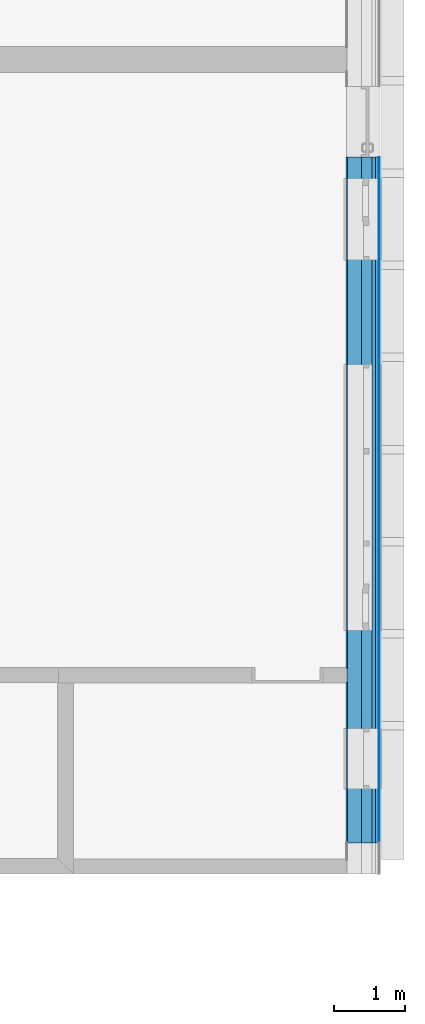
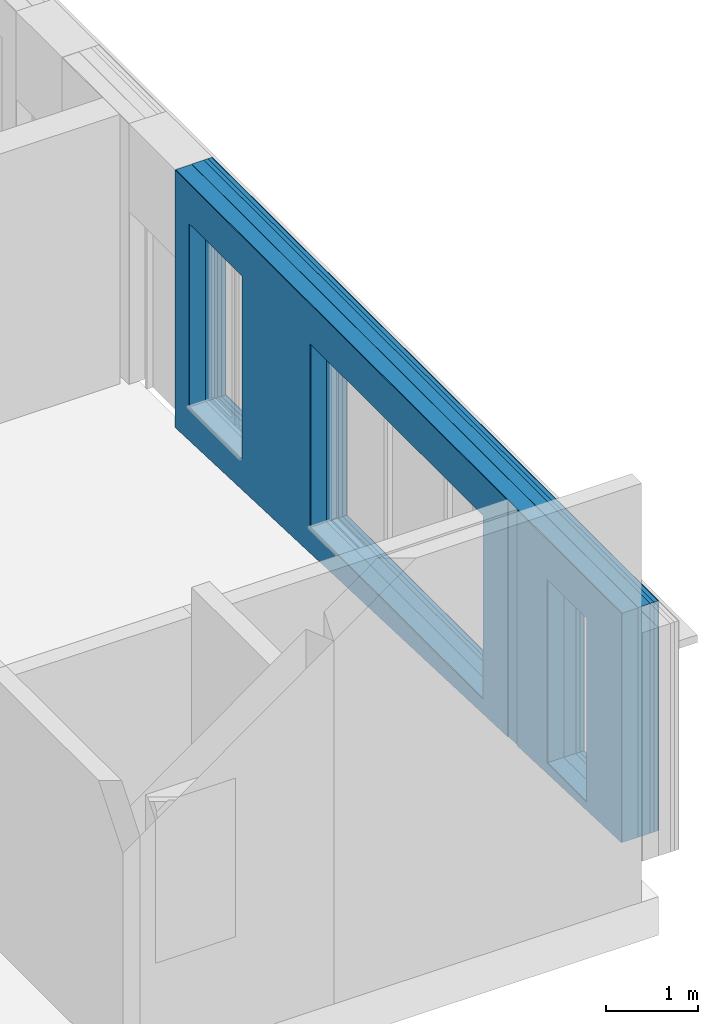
# One storey, part 58 of 65: 6 building element parts, 3 openings, 1 element without a shape of its own.
"""IFC2X3 building model written with IfcOpenShell, lengths in millimetres."""

from ifc_helpers import new_model, entity, si_unit, converted_unit, derived_unit, money_unit, direction, frame, origin_with_axes, origin_2d_with_axis, place, context, subcontext, project, spatial, polyline, rectangle, outline, extrude, boolean, faceted_brep, material, type_object, element, aggregate, save


model = new_model("IFC2X3")

# Units and contexts
model_context = context("Model", 3, precision=0.01, world=origin_with_axes(), true_north=direction((0.0, 1.0)))
body_context = subcontext(model_context, "Body", "Model", "MODEL_VIEW")
ifc_project = project(units=[si_unit("LENGTHUNIT", "METRE", prefix="MILLI"), si_unit("AREAUNIT", "SQUARE_METRE"), si_unit("VOLUMEUNIT", "CUBIC_METRE"), converted_unit("PLANEANGLEUNIT", "DEGREE", entity("IfcPlaneAngleMeasure", 0.0174532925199), si_unit("PLANEANGLEUNIT", "RADIAN"), dimensions=[0, 0, 0, 0, 0, 0, 0]), si_unit("SOLIDANGLEUNIT", "STERADIAN"), money_unit("EUR"), converted_unit("TIMEUNIT", "Year", entity("IfcTimeMeasure", 31556926.0), si_unit("TIMEUNIT", "SECOND"), dimensions=[0, 0, 1, 0, 0, 0, 0]), si_unit("MASSUNIT", "GRAM", prefix="KILO"), si_unit("THERMODYNAMICTEMPERATUREUNIT", "DEGREE_CELSIUS"), si_unit("LUMINOUSINTENSITYUNIT", "LUMEN"), si_unit("ENERGYUNIT", "JOULE", prefix="MEGA"), derived_unit("THERMALCONDUCTANCEUNIT", [(si_unit("POWERUNIT", "WATT"), 1), (si_unit("LENGTHUNIT", "METRE"), -1), (si_unit("THERMODYNAMICTEMPERATUREUNIT", "KELVIN"), -1)]), derived_unit("SPECIFICHEATCAPACITYUNIT", [(si_unit("ENERGYUNIT", "JOULE"), 1), (si_unit("MASSUNIT", "GRAM", prefix="KILO"), -1), (si_unit("THERMODYNAMICTEMPERATUREUNIT", "KELVIN"), -1)]), derived_unit("MASSDENSITYUNIT", [(si_unit("MASSUNIT", "GRAM", prefix="KILO"), 1), (si_unit("VOLUMEUNIT", "CUBIC_METRE"), -1)])], contexts=[model_context])

# Site, building, storey
site_placement = place(None, origin_with_axes())
site = spatial("IfcSite", under=ifc_project, at=site_placement, Name="Puškini 31, Narva", CompositionType="ELEMENT")
building_placement = place(site_placement, origin_with_axes())
building = spatial("IfcBuilding", under=site, at=building_placement, Name="Narva Riigigümnaasium", CompositionType="ELEMENT")
storey_placement = place(building_placement, frame((0.0, 0.0, -1320.0), z_axis=(0.0, 0.0, 1.0), x_axis=(1.0, 0.0, 0.0)))
storey = spatial("IfcBuildingStorey", under=building, at=storey_placement, Name="1.korrus -1.32", CompositionType="ELEMENT", Elevation=-1320.0)

# Wall, openings, building element parts
wall_type = type_object("IfcWallType", Name="G-VS-01 468", PredefinedType="NOTDEFINED")
wall_placement = place(storey_placement, frame((54000.000001, 169110.151272, -1980.0), z_axis=(0.0, 0.0, 1.0), x_axis=(0.0, -1.0, 0.0)))
wall = element("IfcWall", 1, at=wall_placement, inside=storey, type_object=wall_type, Name="Välissein")
opening_1_placement = place(wall_placement, frame((8487.49232027, 0.0, 2580.0), z_axis=(0.0, 0.0, 1.0), x_axis=(1.0, 0.0, 0.0)))
element("IfcOpeningElement", 2, at=opening_1_placement, cuts=wall, Name="G-A-05", context=body_context, shape_type="SweptSolid", body=[
    extrude(rectangle(XDim=850.0, YDim=2430.0, at=origin_2d_with_axis()), frame((0.0, 308.0, 1215.0), z_axis=(0.0, 1.0, 0.0), x_axis=(-1.0, 0.0, 0.0)), (0.0, 0.0, -1.0), 786.0),
    extrude(rectangle(XDim=850.0, YDim=2430.0, at=origin_2d_with_axis()), frame((0.0, 308.0, 1215.0), z_axis=(0.0, -1.0, 0.0), x_axis=(-1.0, 0.0, 0.0)), (0.0, 0.0, -1.0), 618.0),
])
opening_2_placement = place(wall_placement, frame((4800.0, 0.0, 2580.0), z_axis=(0.0, 0.0, 1.0), x_axis=(1.0, 0.0, 0.0)))
element("IfcOpeningElement", 3, at=opening_2_placement, cuts=wall, Name="G-A-20", context=body_context, shape_type="SweptSolid", body=[
    extrude(rectangle(XDim=3750.0, YDim=2430.0, at=origin_2d_with_axis()), frame((0.0, 308.0, 1215.0), z_axis=(0.0, 1.0, 0.0), x_axis=(-1.0, 0.0, 0.0)), (0.0, 0.0, -1.0), 786.0),
    extrude(rectangle(XDim=3750.0, YDim=2430.0, at=origin_2d_with_axis()), frame((0.0, 308.0, 1215.0), z_axis=(0.0, -1.0, 0.0), x_axis=(-1.0, 0.0, 0.0)), (0.0, 0.0, -1.0), 618.0),
])
opening_3_placement = place(wall_placement, frame((875.0, 0.0, 2580.0), z_axis=(0.0, 0.0, 1.0), x_axis=(1.0, 0.0, 0.0)))
element("IfcOpeningElement", 4, at=opening_3_placement, cuts=wall, Name="G-A-04", context=body_context, shape_type="SweptSolid", body=[
    extrude(rectangle(XDim=1150.0, YDim=2430.0, at=origin_2d_with_axis()), frame((0.0, 308.0, 1215.0), z_axis=(0.0, -1.0, 0.0), x_axis=(1.0, 0.0, 0.0)), (0.0, 0.0, 1.0), 786.0),
    extrude(rectangle(XDim=1150.0, YDim=2430.0, at=origin_2d_with_axis()), frame((0.0, 308.0, 1215.0), z_axis=(0.0, 1.0, 0.0), x_axis=(1.0, 0.0, 0.0)), (0.0, 0.0, 1.0), 618.0),
])
ifc_material_1 = material(Name="Salto-siseviimistlus-seinad")
building_element_part_1_placement = place(wall_placement, origin_with_axes())
building_element_part_1 = element("IfcBuildingElementPart", 5, at=building_element_part_1_placement, material=ifc_material_1, Name="Salto-siseviimistlus-seinad", context=body_context, shape_type="CSG", body=[
    boolean("DIFFERENCE", boolean("DIFFERENCE", boolean("DIFFERENCE", boolean("DIFFERENCE", boolean("DIFFERENCE", boolean("DIFFERENCE", boolean("DIFFERENCE", extrude(outline(polyline([(0.0, -10.0), (9673.58412481, -10.0), (9673.58412481, 0.0), (0.0, 0.0), (0.0, -10.0)])), origin_with_axes(), (0.0, 0.0, 1.0), 5539.82248474), faceted_brep([(7210.15127194, 0.0, 2405.48361063), (7210.15127194, 0.0, 5535.0), (0.0, 0.0, 5535.0), (0.0, 0.0, 5539.82248474), (9673.58412481, 0.0, 5539.82248474), (9673.58412481, 0.0, 5535.0), (7410.15127194, 0.0, 5535.0), (7410.15127194, 0.0, 2413.13955911), (9673.58412481, 0.0, 2499.78318565), (9673.58412481, 0.0, 0.0), (0.0, 0.0, 0.0), (0.0, 0.0, 2129.48087731), (7210.15127194, -10.0, 2405.48361063), (7210.15127194, -10.0, 5535.0), (0.0, -10.0, 5535.0), (0.0, -10.0, 5539.82248474), (9673.58412481, -10.0, 5539.82248474), (9673.58412481, -10.0, 5535.0), (7410.15127194, -10.0, 5535.0), (7410.15127194, -10.0, 2413.13955911), (9673.58412481, -10.0, 2499.78318565), (9673.58412481, -10.0, 0.0), (0.0, -10.0, 0.0), (0.0, -10.0, 2129.48087731)], [[[0, 1, 2, 3, 4, 5, 6, 7, 8, 9, 10, 11]], [[1, 0, 12, 13]], [[14, 2, 1, 13]], [[2, 14, 15, 3]], [[3, 15, 16, 4]], [[17, 5, 4, 16]], [[5, 17, 18, 6]], [[7, 6, 18, 19]], [[8, 7, 19, 20]], [[8, 20, 21, 9]], [[21, 22, 10, 9]], [[23, 11, 10, 22]], [[0, 11, 23, 12]], [[12, 23, 22, 21, 20, 19, 18, 17, 16, 15, 14, 13]]])), faceted_brep([(0.0, 0.0, 2129.48087731), (0.0, 199.999997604, 2129.48087731), (0.0, 200.0, 0.0), (0.0, 0.0, 0.0), (9673.58412481, 199.999997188, 2499.78318565), (7210.15127194, 0.0, 2405.48361063), (7410.15127194, 0.0, 2413.13955911), (9673.58412481, 0.0, 2499.78318565), (9673.58412481, 200.0, 0.0), (9673.58412481, 0.0, 0.0)], [[[0, 1, 2, 3]], [[4, 1, 0, 5, 6, 7]], [[1, 4, 8, 2]], [[9, 3, 2, 8]], [[5, 0, 3, 9, 7, 6]], [[4, 7, 9, 8]]])), faceted_brep([(9673.58412481, 199.999993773, 5535.0), (0.0, 199.999993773, 5535.0), (0.0, 200.0, 5539.82248474), (9673.58412481, 200.0, 5539.82248474), (0.0, 0.0, 5535.0), (9673.58412481, 0.0, 5535.0), (0.0, 0.0, 5539.82248474), (9673.58412481, 0.0, 5539.82248474)], [[[0, 1, 2, 3]], [[4, 1, 0, 5]], [[1, 4, 6, 2]], [[2, 6, 7, 3]], [[5, 0, 3, 7]], [[5, 7, 6, 4]]])), faceted_brep([(0.0, 199.999997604, 2129.48087731), (0.0, 350.0, 2129.48087731), (0.0, 350.0, 0.0), (0.0, 200.0, 0.0), (9673.58412481, 350.0, 2499.78318565), (9673.58412481, 199.999997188, 2499.78318565), (9673.58412481, 350.0, 0.0), (9673.58412481, 200.0, 0.0)], [[[0, 1, 2, 3]], [[4, 1, 0, 5]], [[1, 4, 6, 2]], [[7, 3, 2, 6]], [[5, 0, 3, 7]], [[4, 5, 7, 6]]])), faceted_brep([(0.0, 350.0, 2129.48087731), (0.0, 400.0, 2129.48087731), (0.0, 400.0, 0.0), (0.0, 350.0, 0.0), (9673.58412481, 400.0, 2499.78318565), (9673.58412481, 350.0, 2499.78318565), (9673.58412481, 400.0, 0.0), (9673.58412481, 350.0, 0.0)], [[[0, 1, 2, 3]], [[4, 1, 0, 5]], [[1, 4, 6, 2]], [[7, 3, 2, 6]], [[5, 0, 3, 7]], [[4, 5, 7, 6]]])), faceted_brep([(0.0, 400.0, 2129.48087731), (0.0, 450.0, 2129.48087731), (0.0, 450.0, 0.0), (0.0, 400.0, 0.0), (9673.58412481, 450.0, 2499.78318565), (9673.58412481, 400.0, 2499.78318565), (9673.58412481, 450.0, 0.0), (9673.58412481, 400.0, 0.0)], [[[0, 1, 2, 3]], [[4, 1, 0, 5]], [[1, 4, 6, 2]], [[7, 3, 2, 6]], [[5, 0, 3, 7]], [[4, 5, 7, 6]]])), faceted_brep([(0.0, 450.0, 2129.48087731), (0.0, 458.0, 2129.48087731), (0.0, 458.0, 0.0), (0.0, 450.0, 0.0), (9673.58412481, 458.0, 2499.78318565), (9673.58412481, 450.0, 2499.78318565), (9673.58412481, 458.0, 0.0), (9673.58412481, 450.0, 0.0)], [[[0, 1, 2, 3]], [[4, 1, 0, 5]], [[1, 4, 6, 2]], [[7, 3, 2, 6]], [[5, 0, 3, 7]], [[4, 5, 7, 6]]])),
])
ifc_material_2 = material(Name="Betoon element")
building_element_part_2_placement = place(wall_placement, origin_with_axes())
building_element_part_2 = element("IfcBuildingElementPart", 6, at=building_element_part_2_placement, material=ifc_material_2, Name="Betoon element", context=body_context, shape_type="CSG", body=[
    boolean("DIFFERENCE", boolean("DIFFERENCE", boolean("DIFFERENCE", boolean("DIFFERENCE", boolean("DIFFERENCE", boolean("DIFFERENCE", boolean("DIFFERENCE", extrude(outline(polyline([(0.0, 0.0), (9673.58412481, 0.0), (9673.58412481, 200.0), (0.0, 200.0), (0.0, 0.0)])), origin_with_axes(), (0.0, 0.0, 1.0), 5539.82248474), faceted_brep([(7210.15127194, 0.0, 2405.48361063), (7210.15127194, 0.0, 5535.0), (0.0, 0.0, 5535.0), (0.0, 0.0, 5539.82248474), (9673.58412481, 0.0, 5539.82248474), (9673.58412481, 0.0, 5535.0), (7410.15127194, 0.0, 5535.0), (7410.15127194, 0.0, 2413.13955911), (9673.58412481, 0.0, 2499.78318565), (9673.58412481, 0.0, 0.0), (0.0, 0.0, 0.0), (0.0, 0.0, 2129.48087731), (7210.15127194, -10.0, 2405.48361063), (7210.15127194, -10.0, 5535.0), (0.0, -10.0, 5535.0), (0.0, -10.0, 5539.82248474), (9673.58412481, -10.0, 5539.82248474), (9673.58412481, -10.0, 5535.0), (7410.15127194, -10.0, 5535.0), (7410.15127194, -10.0, 2413.13955911), (9673.58412481, -10.0, 2499.78318565), (9673.58412481, -10.0, 0.0), (0.0, -10.0, 0.0), (0.0, -10.0, 2129.48087731)], [[[0, 1, 2, 3, 4, 5, 6, 7, 8, 9, 10, 11]], [[1, 0, 12, 13]], [[14, 2, 1, 13]], [[2, 14, 15, 3]], [[3, 15, 16, 4]], [[17, 5, 4, 16]], [[5, 17, 18, 6]], [[7, 6, 18, 19]], [[8, 7, 19, 20]], [[8, 20, 21, 9]], [[21, 22, 10, 9]], [[23, 11, 10, 22]], [[0, 11, 23, 12]], [[12, 23, 22, 21, 20, 19, 18, 17, 16, 15, 14, 13]]])), faceted_brep([(0.0, 0.0, 2129.48087731), (0.0, 199.999997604, 2129.48087731), (0.0, 200.0, 0.0), (0.0, 0.0, 0.0), (9673.58412481, 199.999997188, 2499.78318565), (7210.15127194, 0.0, 2405.48361063), (7410.15127194, 0.0, 2413.13955911), (9673.58412481, 0.0, 2499.78318565), (9673.58412481, 200.0, 0.0), (9673.58412481, 0.0, 0.0)], [[[0, 1, 2, 3]], [[4, 1, 0, 5, 6, 7]], [[1, 4, 8, 2]], [[9, 3, 2, 8]], [[5, 0, 3, 9, 7, 6]], [[4, 7, 9, 8]]])), faceted_brep([(9673.58412481, 199.999993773, 5535.0), (0.0, 199.999993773, 5535.0), (0.0, 200.0, 5539.82248474), (9673.58412481, 200.0, 5539.82248474), (0.0, 0.0, 5535.0), (9673.58412481, 0.0, 5535.0), (0.0, 0.0, 5539.82248474), (9673.58412481, 0.0, 5539.82248474)], [[[0, 1, 2, 3]], [[4, 1, 0, 5]], [[1, 4, 6, 2]], [[2, 6, 7, 3]], [[5, 0, 3, 7]], [[5, 7, 6, 4]]])), faceted_brep([(0.0, 199.999997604, 2129.48087731), (0.0, 350.0, 2129.48087731), (0.0, 350.0, 0.0), (0.0, 200.0, 0.0), (9673.58412481, 350.0, 2499.78318565), (9673.58412481, 199.999997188, 2499.78318565), (9673.58412481, 350.0, 0.0), (9673.58412481, 200.0, 0.0)], [[[0, 1, 2, 3]], [[4, 1, 0, 5]], [[1, 4, 6, 2]], [[7, 3, 2, 6]], [[5, 0, 3, 7]], [[4, 5, 7, 6]]])), faceted_brep([(0.0, 350.0, 2129.48087731), (0.0, 400.0, 2129.48087731), (0.0, 400.0, 0.0), (0.0, 350.0, 0.0), (9673.58412481, 400.0, 2499.78318565), (9673.58412481, 350.0, 2499.78318565), (9673.58412481, 400.0, 0.0), (9673.58412481, 350.0, 0.0)], [[[0, 1, 2, 3]], [[4, 1, 0, 5]], [[1, 4, 6, 2]], [[7, 3, 2, 6]], [[5, 0, 3, 7]], [[4, 5, 7, 6]]])), faceted_brep([(0.0, 400.0, 2129.48087731), (0.0, 450.0, 2129.48087731), (0.0, 450.0, 0.0), (0.0, 400.0, 0.0), (9673.58412481, 450.0, 2499.78318565), (9673.58412481, 400.0, 2499.78318565), (9673.58412481, 450.0, 0.0), (9673.58412481, 400.0, 0.0)], [[[0, 1, 2, 3]], [[4, 1, 0, 5]], [[1, 4, 6, 2]], [[7, 3, 2, 6]], [[5, 0, 3, 7]], [[4, 5, 7, 6]]])), faceted_brep([(0.0, 450.0, 2129.48087731), (0.0, 458.0, 2129.48087731), (0.0, 458.0, 0.0), (0.0, 450.0, 0.0), (9673.58412481, 458.0, 2499.78318565), (9673.58412481, 450.0, 2499.78318565), (9673.58412481, 458.0, 0.0), (9673.58412481, 450.0, 0.0)], [[[0, 1, 2, 3]], [[4, 1, 0, 5]], [[1, 4, 6, 2]], [[7, 3, 2, 6]], [[5, 0, 3, 7]], [[4, 5, 7, 6]]])),
])
ifc_material_3 = material(Name="Salto-PIR soojustus")
building_element_part_3_placement = place(wall_placement, origin_with_axes())
building_element_part_3 = element("IfcBuildingElementPart", 7, at=building_element_part_3_placement, material=ifc_material_3, Name="Salto-PIR soojustus", context=body_context, shape_type="CSG", body=[
    boolean("DIFFERENCE", boolean("DIFFERENCE", boolean("DIFFERENCE", boolean("DIFFERENCE", boolean("DIFFERENCE", boolean("DIFFERENCE", boolean("DIFFERENCE", extrude(outline(polyline([(0.0, 200.0), (9673.58412481, 200.0), (9673.58412481, 350.0), (0.0, 350.0), (0.0, 200.0)])), origin_with_axes(), (0.0, 0.0, 1.0), 5539.82248474), faceted_brep([(7210.15127194, 0.0, 2405.48361063), (7210.15127194, 0.0, 5535.0), (0.0, 0.0, 5535.0), (0.0, 0.0, 5539.82248474), (9673.58412481, 0.0, 5539.82248474), (9673.58412481, 0.0, 5535.0), (7410.15127194, 0.0, 5535.0), (7410.15127194, 0.0, 2413.13955911), (9673.58412481, 0.0, 2499.78318565), (9673.58412481, 0.0, 0.0), (0.0, 0.0, 0.0), (0.0, 0.0, 2129.48087731), (7210.15127194, -10.0, 2405.48361063), (7210.15127194, -10.0, 5535.0), (0.0, -10.0, 5535.0), (0.0, -10.0, 5539.82248474), (9673.58412481, -10.0, 5539.82248474), (9673.58412481, -10.0, 5535.0), (7410.15127194, -10.0, 5535.0), (7410.15127194, -10.0, 2413.13955911), (9673.58412481, -10.0, 2499.78318565), (9673.58412481, -10.0, 0.0), (0.0, -10.0, 0.0), (0.0, -10.0, 2129.48087731)], [[[0, 1, 2, 3, 4, 5, 6, 7, 8, 9, 10, 11]], [[1, 0, 12, 13]], [[14, 2, 1, 13]], [[2, 14, 15, 3]], [[3, 15, 16, 4]], [[17, 5, 4, 16]], [[5, 17, 18, 6]], [[7, 6, 18, 19]], [[8, 7, 19, 20]], [[8, 20, 21, 9]], [[21, 22, 10, 9]], [[23, 11, 10, 22]], [[0, 11, 23, 12]], [[12, 23, 22, 21, 20, 19, 18, 17, 16, 15, 14, 13]]])), faceted_brep([(0.0, 0.0, 2129.48087731), (0.0, 199.999997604, 2129.48087731), (0.0, 200.0, 0.0), (0.0, 0.0, 0.0), (9673.58412481, 199.999997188, 2499.78318565), (7210.15127194, 0.0, 2405.48361063), (7410.15127194, 0.0, 2413.13955911), (9673.58412481, 0.0, 2499.78318565), (9673.58412481, 200.0, 0.0), (9673.58412481, 0.0, 0.0)], [[[0, 1, 2, 3]], [[4, 1, 0, 5, 6, 7]], [[1, 4, 8, 2]], [[9, 3, 2, 8]], [[5, 0, 3, 9, 7, 6]], [[4, 7, 9, 8]]])), faceted_brep([(9673.58412481, 199.999993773, 5535.0), (0.0, 199.999993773, 5535.0), (0.0, 200.0, 5539.82248474), (9673.58412481, 200.0, 5539.82248474), (0.0, 0.0, 5535.0), (9673.58412481, 0.0, 5535.0), (0.0, 0.0, 5539.82248474), (9673.58412481, 0.0, 5539.82248474)], [[[0, 1, 2, 3]], [[4, 1, 0, 5]], [[1, 4, 6, 2]], [[2, 6, 7, 3]], [[5, 0, 3, 7]], [[5, 7, 6, 4]]])), faceted_brep([(0.0, 199.999997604, 2129.48087731), (0.0, 350.0, 2129.48087731), (0.0, 350.0, 0.0), (0.0, 200.0, 0.0), (9673.58412481, 350.0, 2499.78318565), (9673.58412481, 199.999997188, 2499.78318565), (9673.58412481, 350.0, 0.0), (9673.58412481, 200.0, 0.0)], [[[0, 1, 2, 3]], [[4, 1, 0, 5]], [[1, 4, 6, 2]], [[7, 3, 2, 6]], [[5, 0, 3, 7]], [[4, 5, 7, 6]]])), faceted_brep([(0.0, 350.0, 2129.48087731), (0.0, 400.0, 2129.48087731), (0.0, 400.0, 0.0), (0.0, 350.0, 0.0), (9673.58412481, 400.0, 2499.78318565), (9673.58412481, 350.0, 2499.78318565), (9673.58412481, 400.0, 0.0), (9673.58412481, 350.0, 0.0)], [[[0, 1, 2, 3]], [[4, 1, 0, 5]], [[1, 4, 6, 2]], [[7, 3, 2, 6]], [[5, 0, 3, 7]], [[4, 5, 7, 6]]])), faceted_brep([(0.0, 400.0, 2129.48087731), (0.0, 450.0, 2129.48087731), (0.0, 450.0, 0.0), (0.0, 400.0, 0.0), (9673.58412481, 450.0, 2499.78318565), (9673.58412481, 400.0, 2499.78318565), (9673.58412481, 450.0, 0.0), (9673.58412481, 400.0, 0.0)], [[[0, 1, 2, 3]], [[4, 1, 0, 5]], [[1, 4, 6, 2]], [[7, 3, 2, 6]], [[5, 0, 3, 7]], [[4, 5, 7, 6]]])), faceted_brep([(0.0, 450.0, 2129.48087731), (0.0, 458.0, 2129.48087731), (0.0, 458.0, 0.0), (0.0, 450.0, 0.0), (9673.58412481, 458.0, 2499.78318565), (9673.58412481, 450.0, 2499.78318565), (9673.58412481, 458.0, 0.0), (9673.58412481, 450.0, 0.0)], [[[0, 1, 2, 3]], [[4, 1, 0, 5]], [[1, 4, 6, 2]], [[7, 3, 2, 6]], [[5, 0, 3, 7]], [[4, 5, 7, 6]]])),
])
building_element_part_4_placement = place(wall_placement, origin_with_axes())
building_element_part_4 = element("IfcBuildingElementPart", 8, at=building_element_part_4_placement, material=ifc_material_3, Name="Salto-PIR soojustus", context=body_context, shape_type="CSG", body=[
    boolean("DIFFERENCE", boolean("DIFFERENCE", boolean("DIFFERENCE", boolean("DIFFERENCE", boolean("DIFFERENCE", boolean("DIFFERENCE", boolean("DIFFERENCE", extrude(outline(polyline([(0.0, 350.0), (9673.58412481, 350.0), (9673.58412481, 400.0), (0.0, 400.0), (0.0, 350.0)])), origin_with_axes(), (0.0, 0.0, 1.0), 5539.82248474), faceted_brep([(7210.15127194, 0.0, 2405.48361063), (7210.15127194, 0.0, 5535.0), (0.0, 0.0, 5535.0), (0.0, 0.0, 5539.82248474), (9673.58412481, 0.0, 5539.82248474), (9673.58412481, 0.0, 5535.0), (7410.15127194, 0.0, 5535.0), (7410.15127194, 0.0, 2413.13955911), (9673.58412481, 0.0, 2499.78318565), (9673.58412481, 0.0, 0.0), (0.0, 0.0, 0.0), (0.0, 0.0, 2129.48087731), (7210.15127194, -10.0, 2405.48361063), (7210.15127194, -10.0, 5535.0), (0.0, -10.0, 5535.0), (0.0, -10.0, 5539.82248474), (9673.58412481, -10.0, 5539.82248474), (9673.58412481, -10.0, 5535.0), (7410.15127194, -10.0, 5535.0), (7410.15127194, -10.0, 2413.13955911), (9673.58412481, -10.0, 2499.78318565), (9673.58412481, -10.0, 0.0), (0.0, -10.0, 0.0), (0.0, -10.0, 2129.48087731)], [[[0, 1, 2, 3, 4, 5, 6, 7, 8, 9, 10, 11]], [[1, 0, 12, 13]], [[14, 2, 1, 13]], [[2, 14, 15, 3]], [[3, 15, 16, 4]], [[17, 5, 4, 16]], [[5, 17, 18, 6]], [[7, 6, 18, 19]], [[8, 7, 19, 20]], [[8, 20, 21, 9]], [[21, 22, 10, 9]], [[23, 11, 10, 22]], [[0, 11, 23, 12]], [[12, 23, 22, 21, 20, 19, 18, 17, 16, 15, 14, 13]]])), faceted_brep([(0.0, 0.0, 2129.48087731), (0.0, 199.999997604, 2129.48087731), (0.0, 200.0, 0.0), (0.0, 0.0, 0.0), (9673.58412481, 199.999997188, 2499.78318565), (7210.15127194, 0.0, 2405.48361063), (7410.15127194, 0.0, 2413.13955911), (9673.58412481, 0.0, 2499.78318565), (9673.58412481, 200.0, 0.0), (9673.58412481, 0.0, 0.0)], [[[0, 1, 2, 3]], [[4, 1, 0, 5, 6, 7]], [[1, 4, 8, 2]], [[9, 3, 2, 8]], [[5, 0, 3, 9, 7, 6]], [[4, 7, 9, 8]]])), faceted_brep([(9673.58412481, 199.999993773, 5535.0), (0.0, 199.999993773, 5535.0), (0.0, 200.0, 5539.82248474), (9673.58412481, 200.0, 5539.82248474), (0.0, 0.0, 5535.0), (9673.58412481, 0.0, 5535.0), (0.0, 0.0, 5539.82248474), (9673.58412481, 0.0, 5539.82248474)], [[[0, 1, 2, 3]], [[4, 1, 0, 5]], [[1, 4, 6, 2]], [[2, 6, 7, 3]], [[5, 0, 3, 7]], [[5, 7, 6, 4]]])), faceted_brep([(0.0, 199.999997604, 2129.48087731), (0.0, 350.0, 2129.48087731), (0.0, 350.0, 0.0), (0.0, 200.0, 0.0), (9673.58412481, 350.0, 2499.78318565), (9673.58412481, 199.999997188, 2499.78318565), (9673.58412481, 350.0, 0.0), (9673.58412481, 200.0, 0.0)], [[[0, 1, 2, 3]], [[4, 1, 0, 5]], [[1, 4, 6, 2]], [[7, 3, 2, 6]], [[5, 0, 3, 7]], [[4, 5, 7, 6]]])), faceted_brep([(0.0, 350.0, 2129.48087731), (0.0, 400.0, 2129.48087731), (0.0, 400.0, 0.0), (0.0, 350.0, 0.0), (9673.58412481, 400.0, 2499.78318565), (9673.58412481, 350.0, 2499.78318565), (9673.58412481, 400.0, 0.0), (9673.58412481, 350.0, 0.0)], [[[0, 1, 2, 3]], [[4, 1, 0, 5]], [[1, 4, 6, 2]], [[7, 3, 2, 6]], [[5, 0, 3, 7]], [[4, 5, 7, 6]]])), faceted_brep([(0.0, 400.0, 2129.48087731), (0.0, 450.0, 2129.48087731), (0.0, 450.0, 0.0), (0.0, 400.0, 0.0), (9673.58412481, 450.0, 2499.78318565), (9673.58412481, 400.0, 2499.78318565), (9673.58412481, 450.0, 0.0), (9673.58412481, 400.0, 0.0)], [[[0, 1, 2, 3]], [[4, 1, 0, 5]], [[1, 4, 6, 2]], [[7, 3, 2, 6]], [[5, 0, 3, 7]], [[4, 5, 7, 6]]])), faceted_brep([(0.0, 450.0, 2129.48087731), (0.0, 458.0, 2129.48087731), (0.0, 458.0, 0.0), (0.0, 450.0, 0.0), (9673.58412481, 458.0, 2499.78318565), (9673.58412481, 450.0, 2499.78318565), (9673.58412481, 458.0, 0.0), (9673.58412481, 450.0, 0.0)], [[[0, 1, 2, 3]], [[4, 1, 0, 5]], [[1, 4, 6, 2]], [[7, 3, 2, 6]], [[5, 0, 3, 7]], [[4, 5, 7, 6]]])),
])
ifc_material_4 = material(Name="Salto-roovitus")
building_element_part_5_placement = place(wall_placement, origin_with_axes())
building_element_part_5 = element("IfcBuildingElementPart", 9, at=building_element_part_5_placement, material=ifc_material_4, Name="Salto-roovitus", context=body_context, shape_type="CSG", body=[
    boolean("DIFFERENCE", boolean("DIFFERENCE", boolean("DIFFERENCE", boolean("DIFFERENCE", boolean("DIFFERENCE", boolean("DIFFERENCE", boolean("DIFFERENCE", extrude(outline(polyline([(0.0, 400.0), (9673.58412481, 400.0), (9673.58412481, 450.0), (0.0, 450.0), (0.0, 400.0)])), origin_with_axes(), (0.0, 0.0, 1.0), 5539.82248474), faceted_brep([(7210.15127194, 0.0, 2405.48361063), (7210.15127194, 0.0, 5535.0), (0.0, 0.0, 5535.0), (0.0, 0.0, 5539.82248474), (9673.58412481, 0.0, 5539.82248474), (9673.58412481, 0.0, 5535.0), (7410.15127194, 0.0, 5535.0), (7410.15127194, 0.0, 2413.13955911), (9673.58412481, 0.0, 2499.78318565), (9673.58412481, 0.0, 0.0), (0.0, 0.0, 0.0), (0.0, 0.0, 2129.48087731), (7210.15127194, -10.0, 2405.48361063), (7210.15127194, -10.0, 5535.0), (0.0, -10.0, 5535.0), (0.0, -10.0, 5539.82248474), (9673.58412481, -10.0, 5539.82248474), (9673.58412481, -10.0, 5535.0), (7410.15127194, -10.0, 5535.0), (7410.15127194, -10.0, 2413.13955911), (9673.58412481, -10.0, 2499.78318565), (9673.58412481, -10.0, 0.0), (0.0, -10.0, 0.0), (0.0, -10.0, 2129.48087731)], [[[0, 1, 2, 3, 4, 5, 6, 7, 8, 9, 10, 11]], [[1, 0, 12, 13]], [[14, 2, 1, 13]], [[2, 14, 15, 3]], [[3, 15, 16, 4]], [[17, 5, 4, 16]], [[5, 17, 18, 6]], [[7, 6, 18, 19]], [[8, 7, 19, 20]], [[8, 20, 21, 9]], [[21, 22, 10, 9]], [[23, 11, 10, 22]], [[0, 11, 23, 12]], [[12, 23, 22, 21, 20, 19, 18, 17, 16, 15, 14, 13]]])), faceted_brep([(0.0, 0.0, 2129.48087731), (0.0, 199.999997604, 2129.48087731), (0.0, 200.0, 0.0), (0.0, 0.0, 0.0), (9673.58412481, 199.999997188, 2499.78318565), (7210.15127194, 0.0, 2405.48361063), (7410.15127194, 0.0, 2413.13955911), (9673.58412481, 0.0, 2499.78318565), (9673.58412481, 200.0, 0.0), (9673.58412481, 0.0, 0.0)], [[[0, 1, 2, 3]], [[4, 1, 0, 5, 6, 7]], [[1, 4, 8, 2]], [[9, 3, 2, 8]], [[5, 0, 3, 9, 7, 6]], [[4, 7, 9, 8]]])), faceted_brep([(9673.58412481, 199.999993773, 5535.0), (0.0, 199.999993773, 5535.0), (0.0, 200.0, 5539.82248474), (9673.58412481, 200.0, 5539.82248474), (0.0, 0.0, 5535.0), (9673.58412481, 0.0, 5535.0), (0.0, 0.0, 5539.82248474), (9673.58412481, 0.0, 5539.82248474)], [[[0, 1, 2, 3]], [[4, 1, 0, 5]], [[1, 4, 6, 2]], [[2, 6, 7, 3]], [[5, 0, 3, 7]], [[5, 7, 6, 4]]])), faceted_brep([(0.0, 199.999997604, 2129.48087731), (0.0, 350.0, 2129.48087731), (0.0, 350.0, 0.0), (0.0, 200.0, 0.0), (9673.58412481, 350.0, 2499.78318565), (9673.58412481, 199.999997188, 2499.78318565), (9673.58412481, 350.0, 0.0), (9673.58412481, 200.0, 0.0)], [[[0, 1, 2, 3]], [[4, 1, 0, 5]], [[1, 4, 6, 2]], [[7, 3, 2, 6]], [[5, 0, 3, 7]], [[4, 5, 7, 6]]])), faceted_brep([(0.0, 350.0, 2129.48087731), (0.0, 400.0, 2129.48087731), (0.0, 400.0, 0.0), (0.0, 350.0, 0.0), (9673.58412481, 400.0, 2499.78318565), (9673.58412481, 350.0, 2499.78318565), (9673.58412481, 400.0, 0.0), (9673.58412481, 350.0, 0.0)], [[[0, 1, 2, 3]], [[4, 1, 0, 5]], [[1, 4, 6, 2]], [[7, 3, 2, 6]], [[5, 0, 3, 7]], [[4, 5, 7, 6]]])), faceted_brep([(0.0, 400.0, 2129.48087731), (0.0, 450.0, 2129.48087731), (0.0, 450.0, 0.0), (0.0, 400.0, 0.0), (9673.58412481, 450.0, 2499.78318565), (9673.58412481, 400.0, 2499.78318565), (9673.58412481, 450.0, 0.0), (9673.58412481, 400.0, 0.0)], [[[0, 1, 2, 3]], [[4, 1, 0, 5]], [[1, 4, 6, 2]], [[7, 3, 2, 6]], [[5, 0, 3, 7]], [[4, 5, 7, 6]]])), faceted_brep([(0.0, 450.0, 2129.48087731), (0.0, 458.0, 2129.48087731), (0.0, 458.0, 0.0), (0.0, 450.0, 0.0), (9673.58412481, 458.0, 2499.78318565), (9673.58412481, 450.0, 2499.78318565), (9673.58412481, 458.0, 0.0), (9673.58412481, 450.0, 0.0)], [[[0, 1, 2, 3]], [[4, 1, 0, 5]], [[1, 4, 6, 2]], [[7, 3, 2, 6]], [[5, 0, 3, 7]], [[4, 5, 7, 6]]])),
])
ifc_material_5 = material(Name="fassaadiplaat")
building_element_part_6_placement = place(wall_placement, origin_with_axes())
building_element_part_6 = element("IfcBuildingElementPart", 10, at=building_element_part_6_placement, material=ifc_material_5, Name="fassaadiplaat", context=body_context, shape_type="CSG", body=[
    boolean("DIFFERENCE", boolean("DIFFERENCE", boolean("DIFFERENCE", boolean("DIFFERENCE", boolean("DIFFERENCE", boolean("DIFFERENCE", boolean("DIFFERENCE", extrude(outline(polyline([(0.0, 450.0), (9673.58412481, 450.0), (9673.58412481, 458.0), (0.0, 458.0), (0.0, 450.0)])), origin_with_axes(), (0.0, 0.0, 1.0), 5539.82248474), faceted_brep([(7210.15127194, 0.0, 2405.48361063), (7210.15127194, 0.0, 5535.0), (0.0, 0.0, 5535.0), (0.0, 0.0, 5539.82248474), (9673.58412481, 0.0, 5539.82248474), (9673.58412481, 0.0, 5535.0), (7410.15127194, 0.0, 5535.0), (7410.15127194, 0.0, 2413.13955911), (9673.58412481, 0.0, 2499.78318565), (9673.58412481, 0.0, 0.0), (0.0, 0.0, 0.0), (0.0, 0.0, 2129.48087731), (7210.15127194, -10.0, 2405.48361063), (7210.15127194, -10.0, 5535.0), (0.0, -10.0, 5535.0), (0.0, -10.0, 5539.82248474), (9673.58412481, -10.0, 5539.82248474), (9673.58412481, -10.0, 5535.0), (7410.15127194, -10.0, 5535.0), (7410.15127194, -10.0, 2413.13955911), (9673.58412481, -10.0, 2499.78318565), (9673.58412481, -10.0, 0.0), (0.0, -10.0, 0.0), (0.0, -10.0, 2129.48087731)], [[[0, 1, 2, 3, 4, 5, 6, 7, 8, 9, 10, 11]], [[1, 0, 12, 13]], [[14, 2, 1, 13]], [[2, 14, 15, 3]], [[3, 15, 16, 4]], [[17, 5, 4, 16]], [[5, 17, 18, 6]], [[7, 6, 18, 19]], [[8, 7, 19, 20]], [[8, 20, 21, 9]], [[21, 22, 10, 9]], [[23, 11, 10, 22]], [[0, 11, 23, 12]], [[12, 23, 22, 21, 20, 19, 18, 17, 16, 15, 14, 13]]])), faceted_brep([(0.0, 0.0, 2129.48087731), (0.0, 199.999997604, 2129.48087731), (0.0, 200.0, 0.0), (0.0, 0.0, 0.0), (9673.58412481, 199.999997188, 2499.78318565), (7210.15127194, 0.0, 2405.48361063), (7410.15127194, 0.0, 2413.13955911), (9673.58412481, 0.0, 2499.78318565), (9673.58412481, 200.0, 0.0), (9673.58412481, 0.0, 0.0)], [[[0, 1, 2, 3]], [[4, 1, 0, 5, 6, 7]], [[1, 4, 8, 2]], [[9, 3, 2, 8]], [[5, 0, 3, 9, 7, 6]], [[4, 7, 9, 8]]])), faceted_brep([(9673.58412481, 199.999993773, 5535.0), (0.0, 199.999993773, 5535.0), (0.0, 200.0, 5539.82248474), (9673.58412481, 200.0, 5539.82248474), (0.0, 0.0, 5535.0), (9673.58412481, 0.0, 5535.0), (0.0, 0.0, 5539.82248474), (9673.58412481, 0.0, 5539.82248474)], [[[0, 1, 2, 3]], [[4, 1, 0, 5]], [[1, 4, 6, 2]], [[2, 6, 7, 3]], [[5, 0, 3, 7]], [[5, 7, 6, 4]]])), faceted_brep([(0.0, 199.999997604, 2129.48087731), (0.0, 350.0, 2129.48087731), (0.0, 350.0, 0.0), (0.0, 200.0, 0.0), (9673.58412481, 350.0, 2499.78318565), (9673.58412481, 199.999997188, 2499.78318565), (9673.58412481, 350.0, 0.0), (9673.58412481, 200.0, 0.0)], [[[0, 1, 2, 3]], [[4, 1, 0, 5]], [[1, 4, 6, 2]], [[7, 3, 2, 6]], [[5, 0, 3, 7]], [[4, 5, 7, 6]]])), faceted_brep([(0.0, 350.0, 2129.48087731), (0.0, 400.0, 2129.48087731), (0.0, 400.0, 0.0), (0.0, 350.0, 0.0), (9673.58412481, 400.0, 2499.78318565), (9673.58412481, 350.0, 2499.78318565), (9673.58412481, 400.0, 0.0), (9673.58412481, 350.0, 0.0)], [[[0, 1, 2, 3]], [[4, 1, 0, 5]], [[1, 4, 6, 2]], [[7, 3, 2, 6]], [[5, 0, 3, 7]], [[4, 5, 7, 6]]])), faceted_brep([(0.0, 400.0, 2129.48087731), (0.0, 450.0, 2129.48087731), (0.0, 450.0, 0.0), (0.0, 400.0, 0.0), (9673.58412481, 450.0, 2499.78318565), (9673.58412481, 400.0, 2499.78318565), (9673.58412481, 450.0, 0.0), (9673.58412481, 400.0, 0.0)], [[[0, 1, 2, 3]], [[4, 1, 0, 5]], [[1, 4, 6, 2]], [[7, 3, 2, 6]], [[5, 0, 3, 7]], [[4, 5, 7, 6]]])), faceted_brep([(0.0, 450.0, 2129.48087731), (0.0, 458.0, 2129.48087731), (0.0, 458.0, 0.0), (0.0, 450.0, 0.0), (9673.58412481, 458.0, 2499.78318565), (9673.58412481, 450.0, 2499.78318565), (9673.58412481, 458.0, 0.0), (9673.58412481, 450.0, 0.0)], [[[0, 1, 2, 3]], [[4, 1, 0, 5]], [[1, 4, 6, 2]], [[7, 3, 2, 6]], [[5, 0, 3, 7]], [[4, 5, 7, 6]]])),
])
aggregate(wall, [building_element_part_1, building_element_part_2, building_element_part_3, building_element_part_4, building_element_part_5, building_element_part_6])

save(model, "model.ifc")
